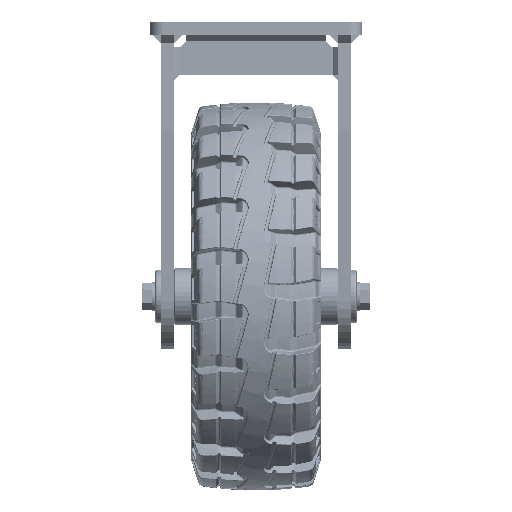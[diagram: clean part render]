
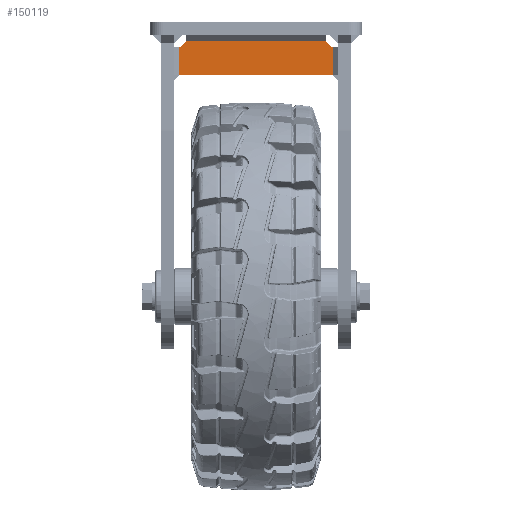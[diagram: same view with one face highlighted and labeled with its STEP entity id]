
A CAD part, left-side view. The second image highlights one B-rep face of the part: STEP entity #150119.
In plain terms, the highlighted planar face has unit normal (-1, 0, 0).
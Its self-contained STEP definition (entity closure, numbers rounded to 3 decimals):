
#19668=LINE('',#195316,#24175);
#19669=LINE('',#195320,#24176);
#19670=LINE('',#195324,#24177);
#19671=LINE('',#195325,#24178);
#24175=VECTOR('',#170138,10.);
#24176=VECTOR('',#170141,10.);
#24177=VECTOR('',#170144,10.);
#24178=VECTOR('',#170145,10.);
#28665=PLANE('',#159709);
#39879=FACE_OUTER_BOUND('',#49409,.T.);
#49409=EDGE_LOOP('',(#103061,#103062,#103063,#103064,#103065,#103066));
#59282=CIRCLE('',#159710,10.);
#59283=CIRCLE('',#159711,10.);
#65813=VERTEX_POINT('',#195314);
#65814=VERTEX_POINT('',#195315);
#65815=VERTEX_POINT('',#195317);
#65816=VERTEX_POINT('',#195319);
#65817=VERTEX_POINT('',#195321);
#65818=VERTEX_POINT('',#195323);
#79813=EDGE_CURVE('',#65813,#65814,#19668,.T.);
#79814=EDGE_CURVE('',#65814,#65815,#59282,.T.);
#79815=EDGE_CURVE('',#65815,#65816,#19669,.T.);
#79816=EDGE_CURVE('',#65816,#65817,#59283,.T.);
#79817=EDGE_CURVE('',#65817,#65818,#19670,.T.);
#79818=EDGE_CURVE('',#65818,#65813,#19671,.T.);
#103061=ORIENTED_EDGE('',*,*,#79813,.T.);
#103062=ORIENTED_EDGE('',*,*,#79814,.T.);
#103063=ORIENTED_EDGE('',*,*,#79815,.T.);
#103064=ORIENTED_EDGE('',*,*,#79816,.T.);
#103065=ORIENTED_EDGE('',*,*,#79817,.T.);
#103066=ORIENTED_EDGE('',*,*,#79818,.T.);
#150119=ADVANCED_FACE('',(#39879),#28665,.F.);
#159709=AXIS2_PLACEMENT_3D('',#195313,#170136,#170137);
#159710=AXIS2_PLACEMENT_3D('',#195318,#170139,#170140);
#159711=AXIS2_PLACEMENT_3D('',#195322,#170142,#170143);
#170136=DIRECTION('center_axis',(1.,0.,0.));
#170137=DIRECTION('ref_axis',(0.,1.,0.));
#170138=DIRECTION('',(0.,0.,1.));
#170139=DIRECTION('center_axis',(1.,0.,0.));
#170140=DIRECTION('ref_axis',(0.,0.,
1.));
#170141=DIRECTION('',(0.,1.,0.));
#170142=DIRECTION('center_axis',(1.,0.,0.));
#170143=DIRECTION('ref_axis',(0.,1.,0.));
#170144=DIRECTION('',(0.,0.,-1.));
#170145=DIRECTION('',(0.,-1.,0.));
#195313=CARTESIAN_POINT('Origin',(-5.,0.,
-15.));
#195314=CARTESIAN_POINT('',(-5.,-58.,-30.));
#195315=CARTESIAN_POINT('',(-5.,-58.,-9.165));
#195316=CARTESIAN_POINT('',(-5.,-58.,-66.875));
#195317=CARTESIAN_POINT('',(-5.,-52.835,-4.));
#195318=CARTESIAN_POINT('Origin',(-5.,-62.,0.));
#195319=CARTESIAN_POINT('',(-5.,52.835,-4.));
#195320=CARTESIAN_POINT('',(-5.,0.,-4.));
#195321=CARTESIAN_POINT('',(-5.,58.,-9.165));
#195322=CARTESIAN_POINT('Origin',(-5.,62.,0.));
#195323=CARTESIAN_POINT('',(-5.,58.,-30.));
#195324=CARTESIAN_POINT('',(-5.,58.,-66.875));
#195325=CARTESIAN_POINT('',(-5.,-62.,-30.));
